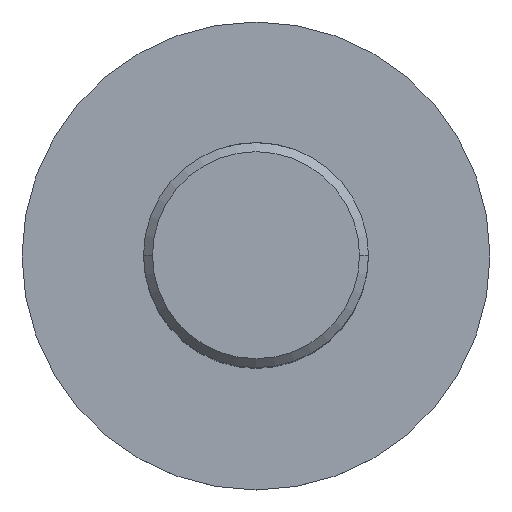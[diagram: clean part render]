
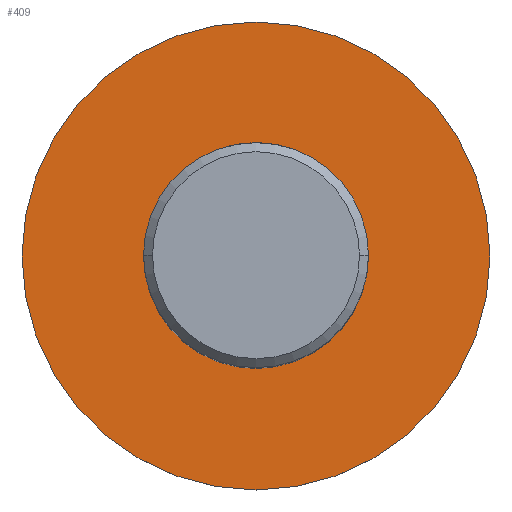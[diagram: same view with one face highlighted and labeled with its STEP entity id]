
A CAD part, top view. The second image highlights one B-rep face of the part: STEP entity #409.
In plain terms, the highlighted planar face has unit normal (0, 0, 1).
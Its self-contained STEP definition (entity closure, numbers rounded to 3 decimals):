
#24=CARTESIAN_POINT('',(0.,-12.5,0.));
#25=DIRECTION('',(0.,0.,1.));
#26=DIRECTION('',(-1.,0.,0.));
#27=AXIS2_PLACEMENT_3D('',#24,#25,#26);
#86=CARTESIAN_POINT('',(0.,-12.5,0.));
#87=DIRECTION('',(0.,0.,1.));
#88=DIRECTION('',(1.,0.,0.));
#89=AXIS2_PLACEMENT_3D('',#86,#87,#88);
#129=CARTESIAN_POINT('',(0.,-12.5,0.));
#130=DIRECTION('',(0.,0.,-1.));
#131=DIRECTION('',(-1.,0.,0.));
#132=AXIS2_PLACEMENT_3D('',#129,#130,#131);
#134=CARTESIAN_POINT('',(0.,-12.5,0.));
#135=DIRECTION('',(0.,0.,-1.));
#136=DIRECTION('',(1.,0.,0.));
#137=AXIS2_PLACEMENT_3D('',#134,#135,#136);
#216=CARTESIAN_POINT('',(-26.,-12.5,0.));
#217=CARTESIAN_POINT('',(26.,-12.5,0.));
#218=VERTEX_POINT('',#216);
#219=VERTEX_POINT('',#217);
#224=CARTESIAN_POINT('',(12.5,-12.5,0.));
#225=CARTESIAN_POINT('',(-12.5,-12.5,0.));
#226=VERTEX_POINT('',#224);
#227=VERTEX_POINT('',#225);
#394=CARTESIAN_POINT('',(0.,0.,0.));
#395=DIRECTION('',(0.,0.,-1.));
#396=DIRECTION('',(-1.,0.,0.));
#397=AXIS2_PLACEMENT_3D('',#394,#395,#396);
#398=PLANE('',#397);
#400=ORIENTED_EDGE('',*,*,#399,.T.);
#402=ORIENTED_EDGE('',*,*,#401,.T.);
#403=EDGE_LOOP('',(#400,#402));
#404=FACE_OUTER_BOUND('',#403,.F.);
#405=ORIENTED_EDGE('',*,*,#310,.T.);
#406=ORIENTED_EDGE('',*,*,#296,.T.);
#407=EDGE_LOOP('',(#405,#406));
#408=FACE_BOUND('',#407,.F.);
#28=CIRCLE('',#27,12.5);
#90=CIRCLE('',#89,12.5);
#133=CIRCLE('',#132,26.);
#138=CIRCLE('',#137,26.);
#296=EDGE_CURVE('',#227,#226,#28,.T.);
#310=EDGE_CURVE('',#226,#227,#90,.T.);
#399=EDGE_CURVE('',#218,#219,#133,.T.);
#401=EDGE_CURVE('',#219,#218,#138,.T.);
#409=ADVANCED_FACE('',(#404,#408),#398,.F.);
